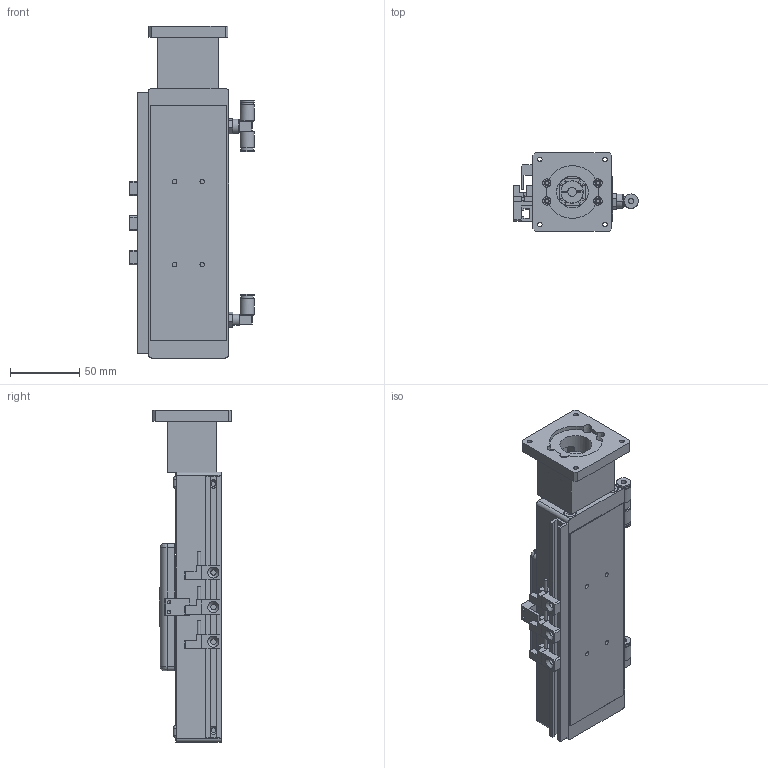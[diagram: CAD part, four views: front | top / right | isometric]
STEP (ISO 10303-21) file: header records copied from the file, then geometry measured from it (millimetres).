
FILE_DESCRIPTION((''),'2;1');
FILE_NAME('E:\catalogue and flyer\actuator catalogue 2015\dwg fr wg\UIA058CR7DC\UIA058CR7DC change cover strip 09May16\UIA058CR7DC-stp file 09May16\UIA058CR7DC-050-R0803-M23-P13-C10.stp','2016-05-09T14:12:28',('h029'),(''),'Autodesk Inventor 11','Autodesk Inventor 11','');
FILE_SCHEMA(('AUTOMOTIVE_DESIGN { 1 0 10303 214 1 1 1 1 }'));
Length unit declared in the file: millimetre
Products named in the file (14): UIA058CR7DC-050; UIA058CR7DC-body; GWL4-M5; GWT4-M5; Sensor Rail; Sensor Bracket; PM-L24; 19-100 0110 M23 Motor House; carriage-new; 19-100 0071 sensor flag; SOH-16C; SOH-16C-3; SOH-16C-2; SOH-16C-1
Assembly tree (17 placements, depth 3):
  UIA058CR7DC-050
    UIA058CR7DC-body
    GWL4-M5
    GWT4-M5
    Sensor Rail
    Sensor Bracket  x3
    PM-L24  x3
    19-100 0110 M23 Motor House
    carriage-new
    19-100 0071 sensor flag
    SOH-16C
      SOH-16C-3
      SOH-16C-2
      SOH-16C-1
Bounding box: 90.1 x 57 x 240 mm (x, y, z)
Volume: 503211.5 mm3; surface area: 99040.6 mm2
Topology: 16 solids, 16 shells, 677 faces, 1718 edges, 1116 vertices
Faces by surface type: plane 399, cylinder 139, bspline 121, cone 10, sphere 8
Full cylindrical faces by diameter (mm): 2.459 x4, 2.5 x5, 4 x2, 5 x5, 6 x4, 6.35 x1, 8.6 x2, 9 x2, 16 x3, 23 x1
Entity records: 18389 total; most frequent: CARTESIAN_POINT 4735, DIRECTION 2742, ORIENTED_EDGE 2612, EDGE_CURVE 1306, AXIS2_PLACEMENT_3D 949, VERTEX_POINT 893, VECTOR 844, LINE 844
